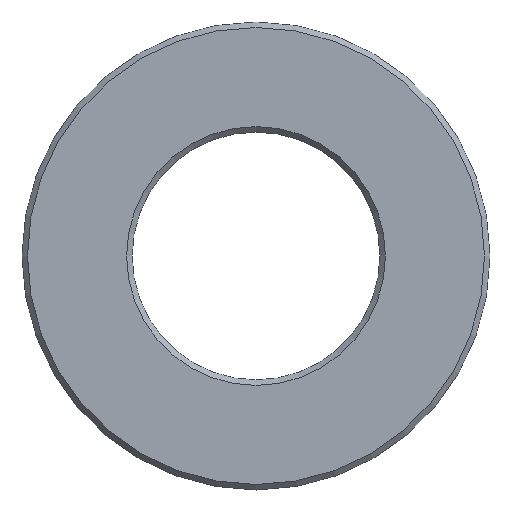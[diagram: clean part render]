
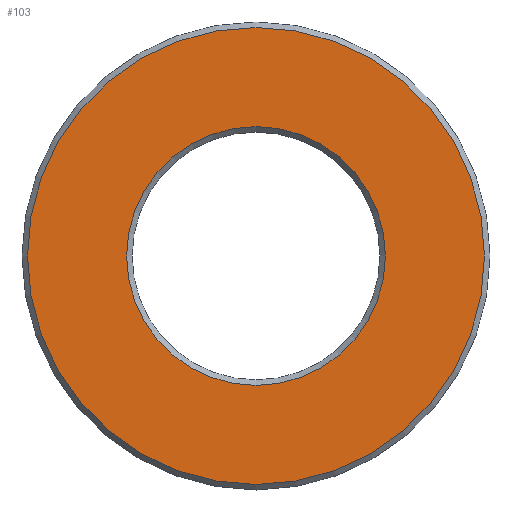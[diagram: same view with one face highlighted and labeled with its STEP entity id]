
A CAD part, front view. The second image highlights one B-rep face of the part: STEP entity #103.
In plain terms, the highlighted planar face has unit normal (0, -1, 0).
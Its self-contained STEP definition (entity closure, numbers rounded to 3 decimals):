
#20=PLANE('',#128);
#30=ORIENTED_EDGE('',*,*,#44,.F.);
#31=ORIENTED_EDGE('',*,*,#41,.F.);
#41=EDGE_CURVE('',#49,#49,#57,.T.);
#44=EDGE_CURVE('',#52,#52,#60,.T.);
#49=VERTEX_POINT('',#176);
#52=VERTEX_POINT('',#185);
#57=CIRCLE('',#123,8.3);
#60=CIRCLE('',#129,4.7);
#70=EDGE_LOOP('',(#30));
#71=EDGE_LOOP('',(#31));
#86=FACE_BOUND('',#70,.T.);
#87=FACE_BOUND('',#71,.T.);
#103=ADVANCED_FACE('',(#86,#87),#20,.F.);
#123=AXIS2_PLACEMENT_3D('',#175,#143,#144);
#128=AXIS2_PLACEMENT_3D('',#183,#153,#154);
#129=AXIS2_PLACEMENT_3D('',#184,#155,#156);
#143=DIRECTION('',(0.,1.,0.));
#144=DIRECTION('',(1.,0.,0.));
#153=DIRECTION('',(0.,1.,0.));
#154=DIRECTION('',(1.,0.,0.));
#155=DIRECTION('',(0.,-1.,0.));
#156=DIRECTION('',(1.,0.,0.));
#175=CARTESIAN_POINT('',(425.,-2.,100.));
#176=CARTESIAN_POINT('',(433.3,-2.,100.));
#183=CARTESIAN_POINT('',(425.,-2.,100.));
#184=CARTESIAN_POINT('',(425.,-2.,100.));
#185=CARTESIAN_POINT('',(429.7,-2.,100.));
